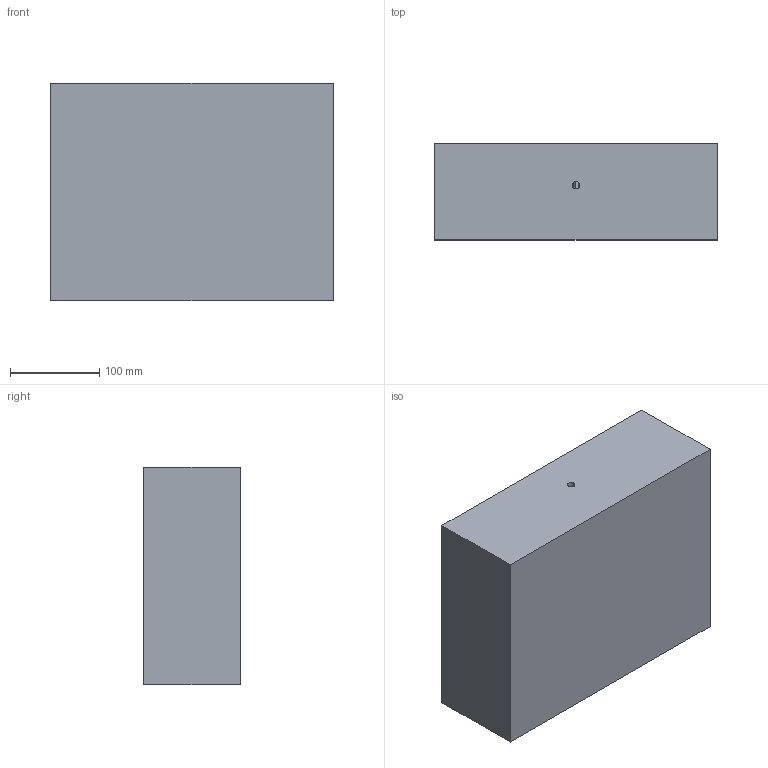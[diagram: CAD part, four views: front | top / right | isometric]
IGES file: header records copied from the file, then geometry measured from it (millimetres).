
Start section: SolidWorks IGES file using analytic representation for surfaces
Global section: file name: C:\working\1400\1400 Case, Bottom.IGS; native system: SolidWorks 2007; preprocessor: SolidWorks 2007; author: darato; date: 090121.082411; units: inch
Bounding box: 316.86 x 107.95 x 243.2 mm (x, y, z)
Surface area: 368408.1 mm2 (no closed solid volume)
Topology: 0 solids, 0 shells, 50 faces, 886 edges, 886 vertices
Faces by surface type: revolution 28, bspline 22
